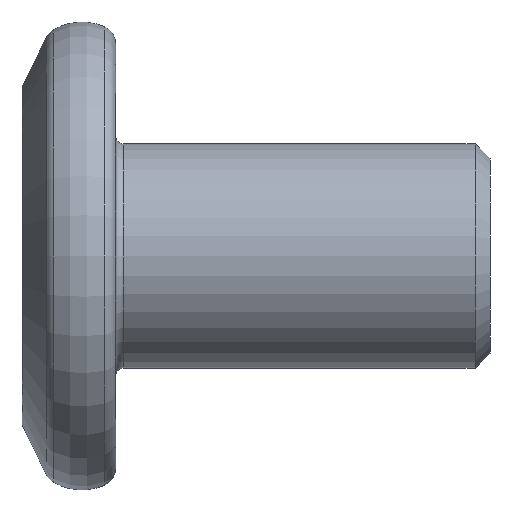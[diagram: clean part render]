
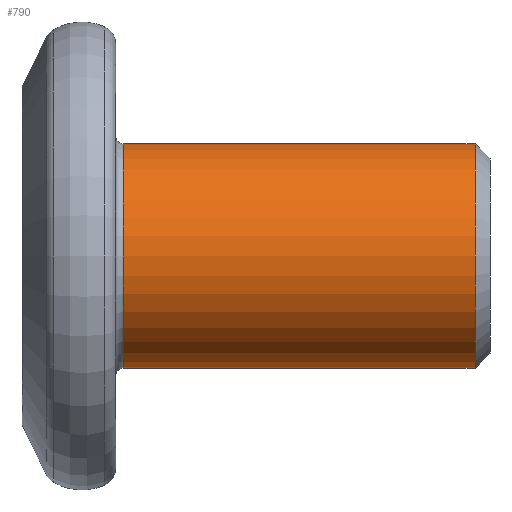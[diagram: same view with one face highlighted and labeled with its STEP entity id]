
A CAD part, front view. The second image highlights one B-rep face of the part: STEP entity #790.
In plain terms, the highlighted cylindrical face has radius 3 mm (diameter 6 mm), a partial arc.
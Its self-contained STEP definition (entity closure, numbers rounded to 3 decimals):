
#87 = DIRECTION ( 'NONE',  ( 1., 0., 0. ) ) ;
#90 = CARTESIAN_POINT ( 'NONE',  ( 2.7, 0., 0. ) ) ;
#97 = ORIENTED_EDGE ( 'NONE', *, *, #702, .T. ) ;
#123 = VERTEX_POINT ( 'NONE', #723 ) ;
#125 = DIRECTION ( 'NONE',  ( 0., 0., -1. ) ) ;
#173 = EDGE_CURVE ( 'NONE', #553, #289, #807, .T. ) ;
#223 = ORIENTED_EDGE ( 'NONE', *, *, #396, .F. ) ;
#227 = DIRECTION ( 'NONE',  ( 1., 0., 0. ) ) ;
#248 = EDGE_CURVE ( 'NONE', #123, #553, #494, .T. ) ;
#264 = VERTEX_POINT ( 'NONE', #814 ) ;
#289 = VERTEX_POINT ( 'NONE', #620 ) ;
#304 = ORIENTED_EDGE ( 'NONE', *, *, #248, .T. ) ;
#309 = AXIS2_PLACEMENT_3D ( 'NONE', #90, #87, #686 ) ;
#334 = CARTESIAN_POINT ( 'NONE',  ( 2.7, 0., -3. ) ) ;
#396 = EDGE_CURVE ( 'NONE', #123, #264, #455, .T. ) ;
#418 = DIRECTION ( 'NONE',  ( 0., 0., -1. ) ) ;
#431 = DIRECTION ( 'NONE',  ( -1., 0., 0. ) ) ;
#440 = ORIENTED_EDGE ( 'NONE', *, *, #173, .T. ) ;
#455 = LINE ( 'NONE', #759, #571 ) ;
#494 = CIRCLE ( 'NONE', #309, 3. ) ;
#507 = VECTOR ( 'NONE', #227, 1000. ) ;
#553 = VERTEX_POINT ( 'NONE', #334 ) ;
#571 = VECTOR ( 'NONE', #778, 1000. ) ;
#573 = AXIS2_PLACEMENT_3D ( 'NONE', #711, #648, #125 ) ;
#586 = CIRCLE ( 'NONE', #629, 3. ) ;
#610 = CARTESIAN_POINT ( 'NONE',  ( 0., 0., -3. ) ) ;
#620 = CARTESIAN_POINT ( 'NONE',  ( 12.1, 0., -3. ) ) ;
#629 = AXIS2_PLACEMENT_3D ( 'NONE', #758, #431, #418 ) ;
#645 = CYLINDRICAL_SURFACE ( 'NONE', #573, 3. ) ;
#648 = DIRECTION ( 'NONE',  ( 1., 0., 0. ) ) ;
#686 = DIRECTION ( 'NONE',  ( 0., 0., -1. ) ) ;
#702 = EDGE_CURVE ( 'NONE', #289, #264, #586, .T. ) ;
#711 = CARTESIAN_POINT ( 'NONE',  ( 0., 0., 0. ) ) ;
#723 = CARTESIAN_POINT ( 'NONE',  ( 2.7, 0., 3. ) ) ;
#724 = EDGE_LOOP ( 'NONE', ( #223, #304, #440, #97 ) ) ;
#758 = CARTESIAN_POINT ( 'NONE',  ( 12.1, 0., 0. ) ) ;
#759 = CARTESIAN_POINT ( 'NONE',  ( 0., 0., 3. ) ) ;
#778 = DIRECTION ( 'NONE',  ( 1., 0., 0. ) ) ;
#790 = ADVANCED_FACE ( 'NONE', ( #824 ), #645, .T. ) ;
#807 = LINE ( 'NONE', #610, #507 ) ;
#814 = CARTESIAN_POINT ( 'NONE',  ( 12.1, 0., 3. ) ) ;
#824 = FACE_OUTER_BOUND ( 'NONE', #724, .T. ) ;
